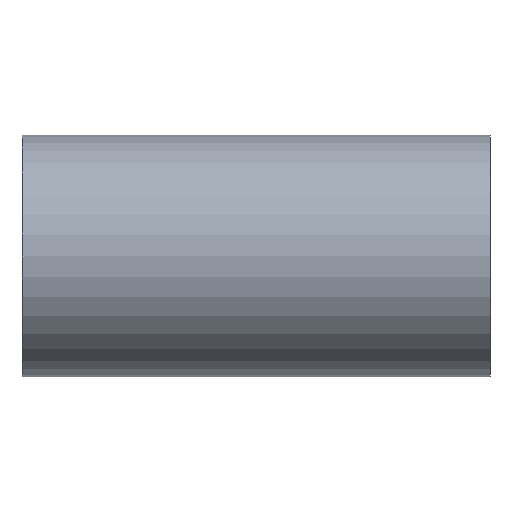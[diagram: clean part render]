
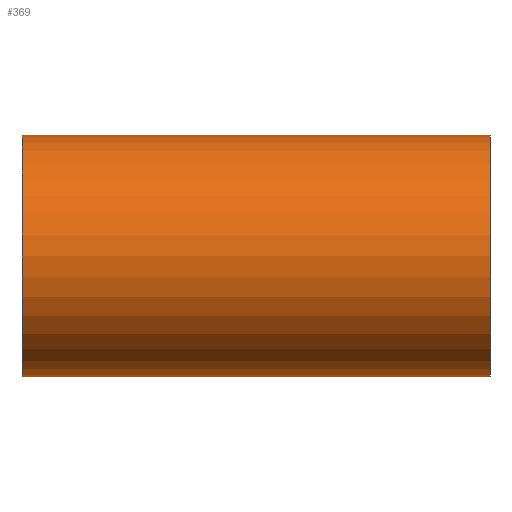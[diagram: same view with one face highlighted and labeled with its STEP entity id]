
A CAD part, front view. The second image highlights one B-rep face of the part: STEP entity #369.
In plain terms, the highlighted cylindrical face has radius 50.8 mm (diameter 101.6 mm), a partial arc.
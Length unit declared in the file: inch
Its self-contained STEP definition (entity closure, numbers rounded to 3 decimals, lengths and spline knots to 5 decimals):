
#1 = CARTESIAN_POINT ( 'NONE',  ( 0., 0., 2. ) ) ;
#4 = CARTESIAN_POINT ( 'NONE',  ( 3.875, 0., 2. ) ) ;
#6 = CARTESIAN_POINT ( 'NONE',  ( 3.875, 0., 0. ) ) ;
#11 = DIRECTION ( 'NONE',  ( 0., 0., -1. ) ) ;
#21 = CARTESIAN_POINT ( 'NONE',  ( 3.875, 0., -2. ) ) ;
#38 = CARTESIAN_POINT ( 'NONE',  ( -3.875, 0., 0. ) ) ;
#47 = DIRECTION ( 'NONE',  ( -1., 0., 0. ) ) ;
#48 = CARTESIAN_POINT ( 'NONE',  ( 3.875, 0., 0. ) ) ;
#62 = DIRECTION ( 'NONE',  ( 1., 0., 0. ) ) ;
#67 = DIRECTION ( 'NONE',  ( 0., 0., -1. ) ) ;
#73 = EDGE_CURVE ( 'NONE', #185, #117, #202, .T. ) ;
#76 = DIRECTION ( 'NONE',  ( 0., 0., 1. ) ) ;
#115 = CARTESIAN_POINT ( 'NONE',  ( 0., 0., -2. ) ) ;
#117 = VERTEX_POINT ( 'NONE', #21 ) ;
#136 = CARTESIAN_POINT ( 'NONE',  ( 3.875, 0., -2. ) ) ;
#139 = VECTOR ( 'NONE', #363, 39.37008 ) ;
#140 = LINE ( 'NONE', #409, #139 ) ;
#141 = CIRCLE ( 'NONE', #299, 2. ) ;
#143 = VECTOR ( 'NONE', #193, 39.37008 ) ;
#145 = LINE ( 'NONE', #4, #143 ) ;
#147 = CARTESIAN_POINT ( 'NONE',  ( -3.875, 0., -2. ) ) ;
#152 = VECTOR ( 'NONE', #392, 39.37008 ) ;
#159 = VECTOR ( 'NONE', #223, 39.37008 ) ;
#161 = LINE ( 'NONE', #136, #152 ) ;
#162 = CYLINDRICAL_SURFACE ( 'NONE', #315, 2. ) ;
#167 = FACE_OUTER_BOUND ( 'NONE', #330, .T. ) ;
#172 = LINE ( 'NONE', #221, #159 ) ;
#185 = VERTEX_POINT ( 'NONE', #259 ) ;
#193 = DIRECTION ( 'NONE',  ( -1., 0., 0. ) ) ;
#202 = CIRCLE ( 'NONE', #370, 2. ) ;
#221 = CARTESIAN_POINT ( 'NONE',  ( 3.875, 0., 2. ) ) ;
#223 = DIRECTION ( 'NONE',  ( -1., 0., 0. ) ) ;
#226 = ORIENTED_EDGE ( 'NONE', *, *, #398, .F. ) ;
#259 = CARTESIAN_POINT ( 'NONE',  ( 3.875, 0., 2. ) ) ;
#299 = AXIS2_PLACEMENT_3D ( 'NONE', #38, #62, #67 ) ;
#301 = ORIENTED_EDGE ( 'NONE', *, *, #391, .T. ) ;
#310 = VERTEX_POINT ( 'NONE', #1 ) ;
#315 = AXIS2_PLACEMENT_3D ( 'NONE', #48, #47, #76 ) ;
#330 = EDGE_LOOP ( 'NONE', ( #408, #365, #419, #301, #421, #226 ) ) ;
#346 = VERTEX_POINT ( 'NONE', #147 ) ;
#358 = VERTEX_POINT ( 'NONE', #401 ) ;
#361 = VERTEX_POINT ( 'NONE', #115 ) ;
#363 = DIRECTION ( 'NONE',  ( -1., 0., 0. ) ) ;
#365 = ORIENTED_EDGE ( 'NONE', *, *, #73, .F. ) ;
#369 = ADVANCED_FACE ( 'NONE', ( #167 ), #162, .T. ) ;
#370 = AXIS2_PLACEMENT_3D ( 'NONE', #6, #375, #11 ) ;
#375 = DIRECTION ( 'NONE',  ( 1., 0., 0. ) ) ;
#391 = EDGE_CURVE ( 'NONE', #310, #358, #172, .T. ) ;
#392 = DIRECTION ( 'NONE',  ( -1., 0., 0. ) ) ;
#398 = EDGE_CURVE ( 'NONE', #361, #346, #161, .T. ) ;
#401 = CARTESIAN_POINT ( 'NONE',  ( -3.875, 0., 2. ) ) ;
#405 = EDGE_CURVE ( 'NONE', #185, #310, #145, .T. ) ;
#408 = ORIENTED_EDGE ( 'NONE', *, *, #411, .F. ) ;
#409 = CARTESIAN_POINT ( 'NONE',  ( 3.875, 0., -2. ) ) ;
#411 = EDGE_CURVE ( 'NONE', #117, #361, #140, .T. ) ;
#415 = EDGE_CURVE ( 'NONE', #358, #346, #141, .T. ) ;
#419 = ORIENTED_EDGE ( 'NONE', *, *, #405, .T. ) ;
#421 = ORIENTED_EDGE ( 'NONE', *, *, #415, .T. ) ;
